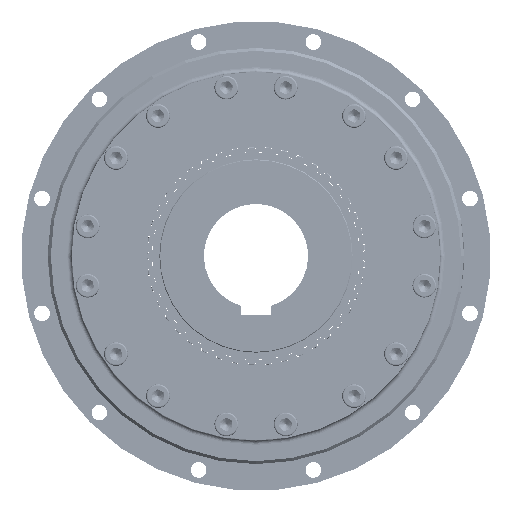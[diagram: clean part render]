
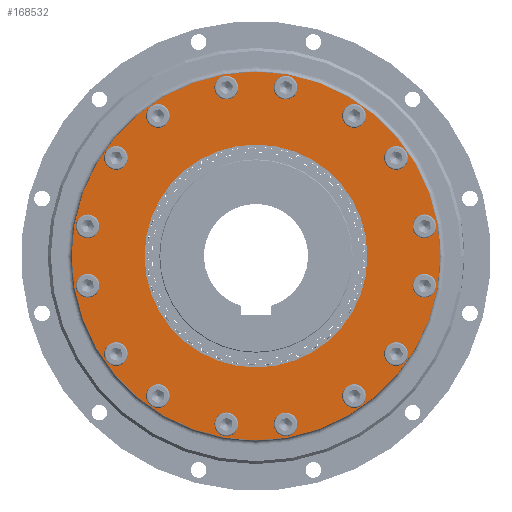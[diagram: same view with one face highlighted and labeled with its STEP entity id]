
A CAD part, left-side view. The second image highlights one B-rep face of the part: STEP entity #168532.
In plain terms, the highlighted planar face has unit normal (-1, 0, 0).
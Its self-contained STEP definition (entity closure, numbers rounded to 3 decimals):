
#772=CIRCLE('',#176404,124.);
#773=CIRCLE('',#176405,8.);
#774=CIRCLE('',#176406,8.);
#775=CIRCLE('',#176407,8.);
#776=CIRCLE('',#176408,8.);
#777=CIRCLE('',#176409,8.);
#778=CIRCLE('',#176410,8.);
#779=CIRCLE('',#176411,8.);
#780=CIRCLE('',#176412,8.);
#781=CIRCLE('',#176413,8.);
#782=CIRCLE('',#176414,8.);
#783=CIRCLE('',#176415,8.);
#784=CIRCLE('',#176416,8.);
#785=CIRCLE('',#176417,8.);
#786=CIRCLE('',#176418,8.);
#787=CIRCLE('',#176419,8.);
#788=CIRCLE('',#176420,8.);
#789=CIRCLE('',#176421,75.);
#10276=FACE_BOUND('',#22699,.T.);
#10277=FACE_BOUND('',#22700,.T.);
#10278=FACE_BOUND('',#22701,.T.);
#10279=FACE_BOUND('',#22702,.T.);
#10280=FACE_BOUND('',#22703,.T.);
#10281=FACE_BOUND('',#22704,.T.);
#10282=FACE_BOUND('',#22705,.T.);
#10283=FACE_BOUND('',#22706,.T.);
#10284=FACE_BOUND('',#22707,.T.);
#10285=FACE_BOUND('',#22708,.T.);
#10286=FACE_BOUND('',#22709,.T.);
#10287=FACE_BOUND('',#22710,.T.);
#10288=FACE_BOUND('',#22711,.T.);
#10289=FACE_BOUND('',#22712,.T.);
#10290=FACE_BOUND('',#22713,.T.);
#10291=FACE_BOUND('',#22714,.T.);
#10292=FACE_BOUND('',#22715,.T.);
#14075=FACE_OUTER_BOUND('',#22698,.T.);
#22698=EDGE_LOOP('',(#116333));
#22699=EDGE_LOOP('',(#116334));
#22700=EDGE_LOOP('',(#116335));
#22701=EDGE_LOOP('',(#116336));
#22702=EDGE_LOOP('',(#116337));
#22703=EDGE_LOOP('',(#116338));
#22704=EDGE_LOOP('',(#116339));
#22705=EDGE_LOOP('',(#116340));
#22706=EDGE_LOOP('',(#116341));
#22707=EDGE_LOOP('',(#116342));
#22708=EDGE_LOOP('',(#116343));
#22709=EDGE_LOOP('',(#116344));
#22710=EDGE_LOOP('',(#116345));
#22711=EDGE_LOOP('',(#116346));
#22712=EDGE_LOOP('',(#116347));
#22713=EDGE_LOOP('',(#116348));
#22714=EDGE_LOOP('',(#116349));
#22715=EDGE_LOOP('',(#116350));
#67711=VERTEX_POINT('',#258334);
#67712=VERTEX_POINT('',#258336);
#67713=VERTEX_POINT('',#258338);
#67714=VERTEX_POINT('',#258340);
#67715=VERTEX_POINT('',#258342);
#67716=VERTEX_POINT('',#258344);
#67717=VERTEX_POINT('',#258346);
#67718=VERTEX_POINT('',#258348);
#67719=VERTEX_POINT('',#258350);
#67720=VERTEX_POINT('',#258352);
#67721=VERTEX_POINT('',#258354);
#67722=VERTEX_POINT('',#258356);
#67723=VERTEX_POINT('',#258358);
#67724=VERTEX_POINT('',#258360);
#67725=VERTEX_POINT('',#258362);
#67726=VERTEX_POINT('',#258364);
#67727=VERTEX_POINT('',#258366);
#67728=VERTEX_POINT('',#258368);
#85664=EDGE_CURVE('',#67711,#67711,#772,.T.);
#85665=EDGE_CURVE('',#67712,#67712,#773,.T.);
#85666=EDGE_CURVE('',#67713,#67713,#774,.T.);
#85667=EDGE_CURVE('',#67714,#67714,#775,.T.);
#85668=EDGE_CURVE('',#67715,#67715,#776,.T.);
#85669=EDGE_CURVE('',#67716,#67716,#777,.T.);
#85670=EDGE_CURVE('',#67717,#67717,#778,.T.);
#85671=EDGE_CURVE('',#67718,#67718,#779,.T.);
#85672=EDGE_CURVE('',#67719,#67719,#780,.T.);
#85673=EDGE_CURVE('',#67720,#67720,#781,.T.);
#85674=EDGE_CURVE('',#67721,#67721,#782,.T.);
#85675=EDGE_CURVE('',#67722,#67722,#783,.T.);
#85676=EDGE_CURVE('',#67723,#67723,#784,.T.);
#85677=EDGE_CURVE('',#67724,#67724,#785,.T.);
#85678=EDGE_CURVE('',#67725,#67725,#786,.T.);
#85679=EDGE_CURVE('',#67726,#67726,#787,.T.);
#85680=EDGE_CURVE('',#67727,#67727,#788,.T.);
#85681=EDGE_CURVE('',#67728,#67728,#789,.T.);
#116333=ORIENTED_EDGE('',*,*,#85664,.F.);
#116334=ORIENTED_EDGE('',*,*,#85665,.T.);
#116335=ORIENTED_EDGE('',*,*,#85666,.T.);
#116336=ORIENTED_EDGE('',*,*,#85667,.T.);
#116337=ORIENTED_EDGE('',*,*,#85668,.T.);
#116338=ORIENTED_EDGE('',*,*,#85669,.T.);
#116339=ORIENTED_EDGE('',*,*,#85670,.T.);
#116340=ORIENTED_EDGE('',*,*,#85671,.T.);
#116341=ORIENTED_EDGE('',*,*,#85672,.T.);
#116342=ORIENTED_EDGE('',*,*,#85673,.T.);
#116343=ORIENTED_EDGE('',*,*,#85674,.T.);
#116344=ORIENTED_EDGE('',*,*,#85675,.T.);
#116345=ORIENTED_EDGE('',*,*,#85676,.T.);
#116346=ORIENTED_EDGE('',*,*,#85677,.T.);
#116347=ORIENTED_EDGE('',*,*,#85678,.T.);
#116348=ORIENTED_EDGE('',*,*,#85679,.T.);
#116349=ORIENTED_EDGE('',*,*,#85680,.T.);
#116350=ORIENTED_EDGE('',*,*,#85681,.T.);
#154252=PLANE('',#176403);
#168532=ADVANCED_FACE('',(#14075,#10276,#10277,#10278,#10279,#10280,#10281,
#10282,#10283,#10284,#10285,#10286,#10287,#10288,#10289,#10290,#10291,#10292),
#154252,.T.);
#176403=AXIS2_PLACEMENT_3D('',#258333,#195561,#195562);
#176404=AXIS2_PLACEMENT_3D('',#258335,#195563,#195564);
#176405=AXIS2_PLACEMENT_3D('',#258337,#195565,#195566);
#176406=AXIS2_PLACEMENT_3D('',#258339,#195567,#195568);
#176407=AXIS2_PLACEMENT_3D('',#258341,#195569,#195570);
#176408=AXIS2_PLACEMENT_3D('',#258343,#195571,#195572);
#176409=AXIS2_PLACEMENT_3D('',#258345,#195573,#195574);
#176410=AXIS2_PLACEMENT_3D('',#258347,#195575,#195576);
#176411=AXIS2_PLACEMENT_3D('',#258349,#195577,#195578);
#176412=AXIS2_PLACEMENT_3D('',#258351,#195579,#195580);
#176413=AXIS2_PLACEMENT_3D('',#258353,#195581,#195582);
#176414=AXIS2_PLACEMENT_3D('',#258355,#195583,#195584);
#176415=AXIS2_PLACEMENT_3D('',#258357,#195585,#195586);
#176416=AXIS2_PLACEMENT_3D('',#258359,#195587,#195588);
#176417=AXIS2_PLACEMENT_3D('',#258361,#195589,#195590);
#176418=AXIS2_PLACEMENT_3D('',#258363,#195591,#195592);
#176419=AXIS2_PLACEMENT_3D('',#258365,#195593,#195594);
#176420=AXIS2_PLACEMENT_3D('',#258367,#195595,#195596);
#176421=AXIS2_PLACEMENT_3D('',#258369,#195597,#195598);
#195561=DIRECTION('center_axis',(-1.,0.,0.));
#195562=DIRECTION('ref_axis',(0.,0.,
1.));
#195563=DIRECTION('center_axis',(1.,0.,0.));
#195564=DIRECTION('ref_axis',(0.,1.,0.));
#195565=DIRECTION('center_axis',(1.,0.,0.));
#195566=DIRECTION('ref_axis',(0.,0.707,0.707));
#195567=DIRECTION('center_axis',(1.,0.,0.));
#195568=DIRECTION('ref_axis',(0.,0.707,0.707));
#195569=DIRECTION('center_axis',(1.,0.,0.));
#195570=DIRECTION('ref_axis',(0.,0.,
1.));
#195571=DIRECTION('center_axis',(1.,0.,0.));
#195572=DIRECTION('ref_axis',(0.,0.,
1.));
#195573=DIRECTION('center_axis',(1.,0.,0.));
#195574=DIRECTION('ref_axis',(0.,-0.707,0.707));
#195575=DIRECTION('center_axis',(1.,0.,0.));
#195576=DIRECTION('ref_axis',(0.,-0.707,0.707));
#195577=DIRECTION('center_axis',(1.,0.,0.));
#195578=DIRECTION('ref_axis',(0.,-1.,0.));
#195579=DIRECTION('center_axis',(1.,0.,0.));
#195580=DIRECTION('ref_axis',(0.,-1.,0.));
#195581=DIRECTION('center_axis',(1.,0.,0.));
#195582=DIRECTION('ref_axis',(0.,-0.707,-0.707));
#195583=DIRECTION('center_axis',(1.,0.,0.));
#195584=DIRECTION('ref_axis',(0.,-0.707,-0.707));
#195585=DIRECTION('center_axis',(1.,0.,0.));
#195586=DIRECTION('ref_axis',(0.,0.,
-1.));
#195587=DIRECTION('center_axis',(1.,0.,0.));
#195588=DIRECTION('ref_axis',(0.,0.,
-1.));
#195589=DIRECTION('center_axis',(1.,0.,0.));
#195590=DIRECTION('ref_axis',(0.,0.707,-0.707));
#195591=DIRECTION('center_axis',(1.,0.,0.));
#195592=DIRECTION('ref_axis',(0.,0.707,-0.707));
#195593=DIRECTION('center_axis',(1.,0.,0.));
#195594=DIRECTION('ref_axis',(0.,1.,0.));
#195595=DIRECTION('center_axis',(1.,0.,0.));
#195596=DIRECTION('ref_axis',(0.,1.,0.));
#195597=DIRECTION('center_axis',(1.,0.,0.));
#195598=DIRECTION('ref_axis',(0.,1.,0.));
#258333=CARTESIAN_POINT('Origin',(-106.,99.5,0.));
#258334=CARTESIAN_POINT('',(-106.,124.,0.));
#258335=CARTESIAN_POINT('Origin',(-106.,0.,0.));
#258336=CARTESIAN_POINT('',(-106.,-107.596,25.626));
#258337=CARTESIAN_POINT('Origin',(-106.,-113.253,19.97));
#258338=CARTESIAN_POINT('',(-106.,-88.546,71.618));
#258339=CARTESIAN_POINT('Origin',(-106.,-94.202,65.961));
#258340=CARTESIAN_POINT('',(-106.,-94.202,-57.961));
#258341=CARTESIAN_POINT('Origin',(-106.,-94.202,-65.961));
#258342=CARTESIAN_POINT('',(-106.,-113.253,-11.97));
#258343=CARTESIAN_POINT('Origin',(-106.,-113.253,-19.97));
#258344=CARTESIAN_POINT('',(-106.,-25.626,-107.596));
#258345=CARTESIAN_POINT('Origin',(-106.,-19.97,-113.253));
#258346=CARTESIAN_POINT('',(-106.,-71.618,-88.546));
#258347=CARTESIAN_POINT('Origin',(-106.,-65.961,-94.202));
#258348=CARTESIAN_POINT('',(-106.,57.961,-94.202));
#258349=CARTESIAN_POINT('Origin',(-106.,65.961,-94.202));
#258350=CARTESIAN_POINT('',(-106.,11.97,-113.253));
#258351=CARTESIAN_POINT('Origin',(-106.,19.97,-113.253));
#258352=CARTESIAN_POINT('',(-106.,107.596,-25.626));
#258353=CARTESIAN_POINT('Origin',(-106.,113.253,-19.97));
#258354=CARTESIAN_POINT('',(-106.,88.546,-71.618));
#258355=CARTESIAN_POINT('Origin',(-106.,94.202,-65.961));
#258356=CARTESIAN_POINT('',(-106.,94.202,57.961));
#258357=CARTESIAN_POINT('Origin',(-106.,94.202,65.961));
#258358=CARTESIAN_POINT('',(-106.,113.253,11.97));
#258359=CARTESIAN_POINT('Origin',(-106.,113.253,19.97));
#258360=CARTESIAN_POINT('',(-106.,25.626,107.596));
#258361=CARTESIAN_POINT('Origin',(-106.,19.97,113.253));
#258362=CARTESIAN_POINT('',(-106.,71.618,88.546));
#258363=CARTESIAN_POINT('Origin',(-106.,65.961,94.202));
#258364=CARTESIAN_POINT('',(-106.,-57.961,94.202));
#258365=CARTESIAN_POINT('Origin',(-106.,-65.961,94.202));
#258366=CARTESIAN_POINT('',(-106.,-11.97,113.253));
#258367=CARTESIAN_POINT('Origin',(-106.,-19.97,113.253));
#258368=CARTESIAN_POINT('',(-106.,75.,0.));
#258369=CARTESIAN_POINT('Origin',(-106.,0.,0.));
